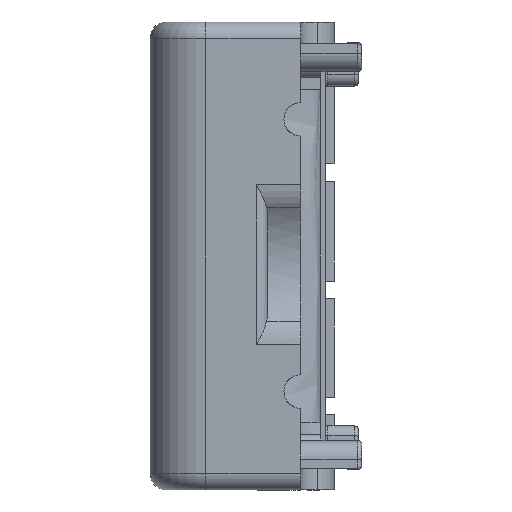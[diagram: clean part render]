
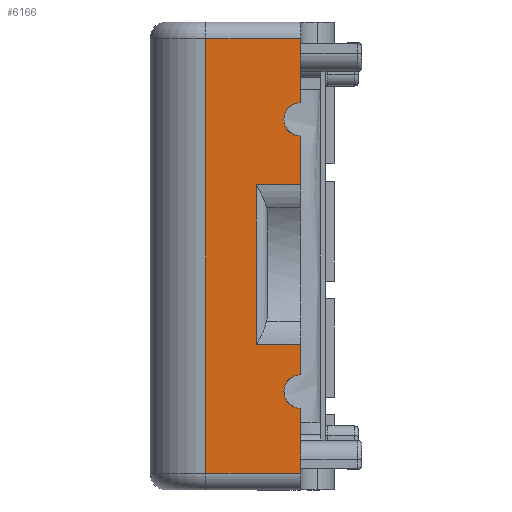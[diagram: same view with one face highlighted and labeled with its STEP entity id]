
A CAD part, left-side view. The second image highlights one B-rep face of the part: STEP entity #6166.
In plain terms, the highlighted planar face has unit normal (-1, 0, 0).
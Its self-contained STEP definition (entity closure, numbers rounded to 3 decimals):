
#115 = VERTEX_POINT ( 'NONE', #7999 ) ;
#175 = DIRECTION ( 'NONE',  ( 0., 0., 1. ) ) ;
#504 = ORIENTED_EDGE ( 'NONE', *, *, #10597, .T. ) ;
#788 = DIRECTION ( 'NONE',  ( 0., 1., 0. ) ) ;
#939 = ORIENTED_EDGE ( 'NONE', *, *, #1099, .T. ) ;
#972 = EDGE_CURVE ( 'NONE', #6268, #9875, #7593, .T. ) ;
#973 = ORIENTED_EDGE ( 'NONE', *, *, #5492, .F. ) ;
#1099 = EDGE_CURVE ( 'NONE', #115, #12330, #2446, .T. ) ;
#1209 = CARTESIAN_POINT ( 'NONE',  ( -24.5, 4., 6.375 ) ) ;
#1315 = CARTESIAN_POINT ( 'NONE',  ( -24.5, 0., 12.25 ) ) ;
#1373 = CARTESIAN_POINT ( 'NONE',  ( -24.5, 0., -19.475 ) ) ;
#1421 = DIRECTION ( 'NONE',  ( 0., 0., -1. ) ) ;
#1660 = VECTOR ( 'NONE', #788, 1000. ) ;
#1714 = CARTESIAN_POINT ( 'NONE',  ( -24.5, 0., 13.75 ) ) ;
#1849 = DIRECTION ( 'NONE',  ( 0., 0., 1. ) ) ;
#1878 = VERTEX_POINT ( 'NONE', #1373 ) ;
#1915 = LINE ( 'NONE', #5852, #6209 ) ;
#2044 = ORIENTED_EDGE ( 'NONE', *, *, #10761, .T. ) ;
#2318 = LINE ( 'NONE', #7281, #6549 ) ;
#2369 = VERTEX_POINT ( 'NONE', #3480 ) ;
#2446 = LINE ( 'NONE', #2698, #1660 ) ;
#2698 = CARTESIAN_POINT ( 'NONE',  ( -24.5, 8.5, 19.475 ) ) ;
#2781 = CARTESIAN_POINT ( 'NONE',  ( -24.5, 8.5, 19.475 ) ) ;
#2874 = DIRECTION ( 'NONE',  ( 0., 0., 1. ) ) ;
#2920 = CARTESIAN_POINT ( 'NONE',  ( -24.5, 0., 20.975 ) ) ;
#2926 = EDGE_CURVE ( 'NONE', #12330, #9742, #4292, .T. ) ;
#3051 = PLANE ( 'NONE',  #7023 ) ;
#3480 = CARTESIAN_POINT ( 'NONE',  ( -24.5, 0., -10.65 ) ) ;
#3491 = LINE ( 'NONE', #4462, #11222 ) ;
#3679 = ORIENTED_EDGE ( 'NONE', *, *, #4650, .T. ) ;
#3895 = DIRECTION ( 'NONE',  ( 1., 0., 0. ) ) ;
#4166 = EDGE_CURVE ( 'NONE', #11967, #2369, #4173, .T. ) ;
#4173 = CIRCLE ( 'NONE', #8024, 1.5 ) ;
#4292 = LINE ( 'NONE', #6006, #10665 ) ;
#4462 = CARTESIAN_POINT ( 'NONE',  ( -24.5, 0., 20.975 ) ) ;
#4650 = EDGE_CURVE ( 'NONE', #9875, #7566, #1915, .T. ) ;
#5013 = CIRCLE ( 'NONE', #6226, 1.5 ) ;
#5103 = FACE_OUTER_BOUND ( 'NONE', #10448, .T. ) ;
#5179 = CARTESIAN_POINT ( 'NONE',  ( -24.5, 0., 10.75 ) ) ;
#5325 = CARTESIAN_POINT ( 'NONE',  ( -24.5, 8.5, -19.475 ) ) ;
#5492 = EDGE_CURVE ( 'NONE', #7018, #8493, #10061, .T. ) ;
#5567 = CARTESIAN_POINT ( 'NONE',  ( -24.5, 0., 6.375 ) ) ;
#5737 = ORIENTED_EDGE ( 'NONE', *, *, #8531, .T. ) ;
#5852 = CARTESIAN_POINT ( 'NONE',  ( -24.5, 0., 20.975 ) ) ;
#5934 = VECTOR ( 'NONE', #175, 1000. ) ;
#6006 = CARTESIAN_POINT ( 'NONE',  ( -24.5, 8.5, -20.975 ) ) ;
#6022 = ORIENTED_EDGE ( 'NONE', *, *, #6058, .T. ) ;
#6041 = LINE ( 'NONE', #2920, #5934 ) ;
#6058 = EDGE_CURVE ( 'NONE', #9742, #1878, #8590, .T. ) ;
#6109 = CARTESIAN_POINT ( 'NONE',  ( -24.5, 13.5, 20.975 ) ) ;
#6166 = ADVANCED_FACE ( 'NONE', ( #5103 ), #3051, .F. ) ;
#6209 = VECTOR ( 'NONE', #1849, 1000. ) ;
#6226 = AXIS2_PLACEMENT_3D ( 'NONE', #1315, #6407, #11930 ) ;
#6255 = CARTESIAN_POINT ( 'NONE',  ( -24.5, 3., -7.925 ) ) ;
#6265 = CARTESIAN_POINT ( 'NONE',  ( -24.5, 0., -7.925 ) ) ;
#6268 = VERTEX_POINT ( 'NONE', #1209 ) ;
#6407 = DIRECTION ( 'NONE',  ( 1., 0., 0. ) ) ;
#6455 = VERTEX_POINT ( 'NONE', #1714 ) ;
#6549 = VECTOR ( 'NONE', #11140, 1000. ) ;
#6707 = LINE ( 'NONE', #7709, #7989 ) ;
#6748 = ORIENTED_EDGE ( 'NONE', *, *, #972, .T. ) ;
#6835 = CARTESIAN_POINT ( 'NONE',  ( -24.5, 3., 6.375 ) ) ;
#6893 = DIRECTION ( 'NONE',  ( 0., -1., 0. ) ) ;
#7018 = VERTEX_POINT ( 'NONE', #10708 ) ;
#7023 = AXIS2_PLACEMENT_3D ( 'NONE', #6109, #10733, #11824 ) ;
#7069 = EDGE_CURVE ( 'NONE', #7566, #6455, #5013, .T. ) ;
#7281 = CARTESIAN_POINT ( 'NONE',  ( -24.5, 0., 20.975 ) ) ;
#7566 = VERTEX_POINT ( 'NONE', #5179 ) ;
#7593 = LINE ( 'NONE', #6835, #9579 ) ;
#7702 = CARTESIAN_POINT ( 'NONE',  ( -24.5, 0., -19.475 ) ) ;
#7709 = CARTESIAN_POINT ( 'NONE',  ( -24.5, 4., 6.375 ) ) ;
#7832 = CARTESIAN_POINT ( 'NONE',  ( -24.5, 0., -12.15 ) ) ;
#7989 = VECTOR ( 'NONE', #2874, 1000. ) ;
#7999 = CARTESIAN_POINT ( 'NONE',  ( -24.5, 0., 19.475 ) ) ;
#8024 = AXIS2_PLACEMENT_3D ( 'NONE', #7832, #3895, #12477 ) ;
#8252 = VECTOR ( 'NONE', #10613, 1000. ) ;
#8493 = VERTEX_POINT ( 'NONE', #6265 ) ;
#8531 = EDGE_CURVE ( 'NONE', #1878, #11967, #2318, .T. ) ;
#8590 = LINE ( 'NONE', #7702, #8252 ) ;
#8796 = ORIENTED_EDGE ( 'NONE', *, *, #11500, .T. ) ;
#9579 = VECTOR ( 'NONE', #6893, 1000. ) ;
#9742 = VERTEX_POINT ( 'NONE', #5325 ) ;
#9875 = VERTEX_POINT ( 'NONE', #5567 ) ;
#10061 = LINE ( 'NONE', #6255, #12308 ) ;
#10121 = DIRECTION ( 'NONE',  ( 0., -1., 0. ) ) ;
#10448 = EDGE_LOOP ( 'NONE', ( #12555, #6022, #5737, #10473, #2044, #973, #8796, #6748, #3679, #11904, #504, #939 ) ) ;
#10473 = ORIENTED_EDGE ( 'NONE', *, *, #4166, .T. ) ;
#10597 = EDGE_CURVE ( 'NONE', #6455, #115, #6041, .T. ) ;
#10613 = DIRECTION ( 'NONE',  ( 0., -1., 0. ) ) ;
#10665 = VECTOR ( 'NONE', #1421, 1000. ) ;
#10708 = CARTESIAN_POINT ( 'NONE',  ( -24.5, 4., -7.925 ) ) ;
#10733 = DIRECTION ( 'NONE',  ( 1., 0., 0. ) ) ;
#10761 = EDGE_CURVE ( 'NONE', #2369, #8493, #3491, .T. ) ;
#11140 = DIRECTION ( 'NONE',  ( 0., 0., 1. ) ) ;
#11171 = DIRECTION ( 'NONE',  ( 0., 0., 1. ) ) ;
#11222 = VECTOR ( 'NONE', #11171, 1000. ) ;
#11233 = CARTESIAN_POINT ( 'NONE',  ( -24.5, 0., -13.65 ) ) ;
#11500 = EDGE_CURVE ( 'NONE', #7018, #6268, #6707, .T. ) ;
#11824 = DIRECTION ( 'NONE',  ( 0., 0., -1. ) ) ;
#11904 = ORIENTED_EDGE ( 'NONE', *, *, #7069, .T. ) ;
#11930 = DIRECTION ( 'NONE',  ( 0., 0., -1. ) ) ;
#11967 = VERTEX_POINT ( 'NONE', #11233 ) ;
#12308 = VECTOR ( 'NONE', #10121, 1000. ) ;
#12330 = VERTEX_POINT ( 'NONE', #2781 ) ;
#12477 = DIRECTION ( 'NONE',  ( 0., 0., -1. ) ) ;
#12555 = ORIENTED_EDGE ( 'NONE', *, *, #2926, .T. ) ;
